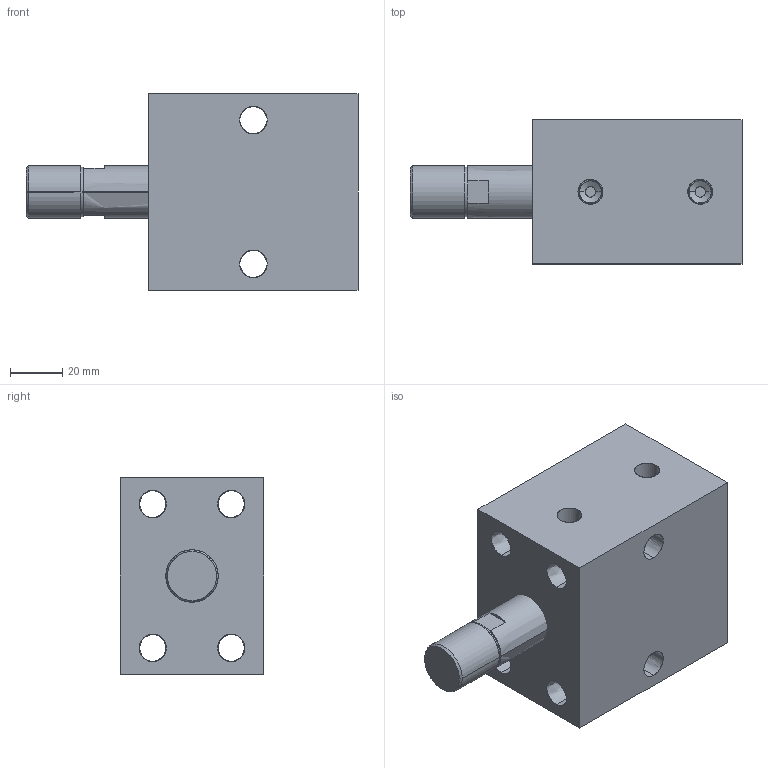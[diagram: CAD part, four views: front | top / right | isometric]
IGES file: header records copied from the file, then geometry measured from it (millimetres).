
Start section: SolidWorks IGES file using analytic representation for surfaces
Global section: file name: C:\Documents and Settings\rajib\Desktop\Rajib\BLOCK CYLINDER HYDRAULIC\0301-0306\IGS 0301-0306\0301.IGS; native system: SolidWorks 2007; preprocessor: SolidWorks 2007; author: rajib; date: 110121.100117; units: millimetre
Bounding box: 127 x 55 x 75 mm (x, y, z)
Surface area: 48711.5 mm2 (no closed solid volume)
Topology: 0 solids, 0 shells, 76 faces, 1704 edges, 1704 vertices
Faces by surface type: revolution 54, bspline 22
